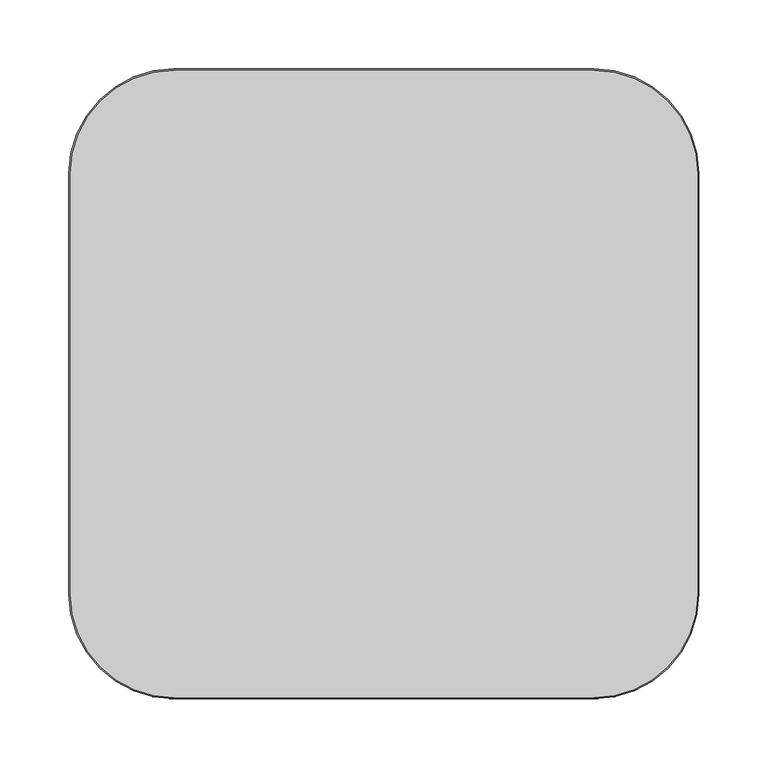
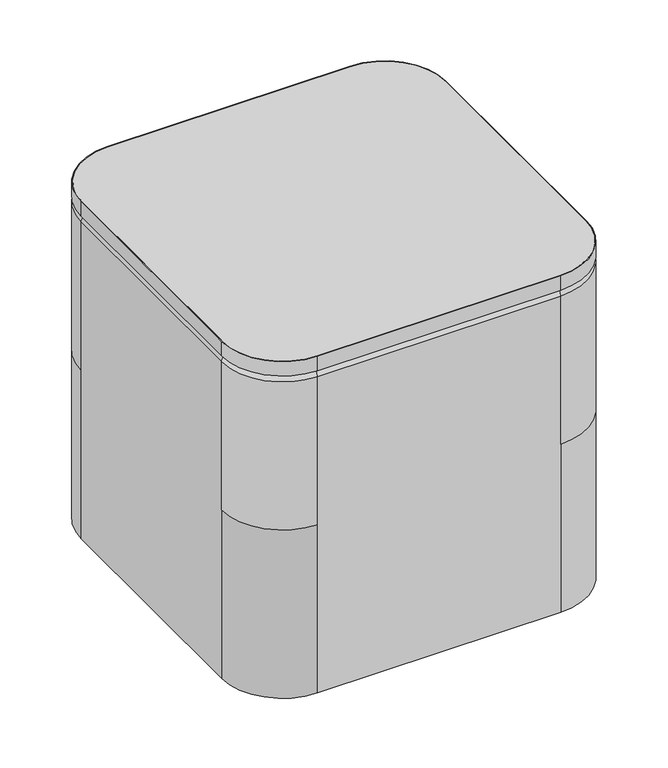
"""IFC4 building model written with IfcOpenShell, lengths in millimetres: furniture geometry, Indiana-Otty-Ottoman_Square_Table : 840-1818SOT."""

from ifc_helpers import new_model, si_unit, point, frame, frame_2d, origin, place, context, project, spatial, polyline, circle_curve, ellipse_curve, trimmed, segment, composite_curve, outline, extrude, source, transform, mapped, element, save
from ifc_brep_helpers import plane_surface, cylinder_surface, revolved_surface, advanced_brep


def furniture_d617ee3a(model_context):
    return source(origin(), model_context, "Body", "SolidModel", [
        extrude(outline(composite_curve([segment(trimmed(circle_curve(frame_2d((152.4, 152.4)), 75.2078125), [point((152.4, 227.6078125))], [point((227.6078125, 152.4))], False, "CARTESIAN"), True, "CONTINUOUS"), segment(polyline([(227.6078125, 152.4), (227.6078125, -152.4)]), True, "CONTINUOUS"), segment(trimmed(circle_curve(frame_2d((152.4, -152.4)), 75.2078125), [point((227.6078125, -152.4))], [point((152.4, -227.6078125))], False, "CARTESIAN"), True, "CONTINUOUS"), segment(polyline([(152.4, -227.6078125), (-152.4, -227.6078125)]), True, "CONTINUOUS"), segment(trimmed(circle_curve(frame_2d((-152.4, -152.4)), 75.2078125), [point((-152.4, -227.6078125))], [point((-227.6078125, -152.4))], False, "CARTESIAN"), True, "CONTINUOUS"), segment(polyline([(-227.6078125, -152.4), (-227.6078125, 152.4)]), True, "CONTINUOUS"), segment(trimmed(circle_curve(frame_2d((-152.4, 152.4)), 75.2078125), [point((-227.6078125, 152.4))], [point((-152.4, 227.6078125))], False, "CARTESIAN"), True, "CONTINUOUS"), segment(polyline([(-152.4, 227.6078125), (152.4, 227.6078125)]), True, "CONTINUOUS")], self_intersect=False)), frame((0.0, 0.0, 438.15), z_axis=(0.0, 0.0, 1.0), x_axis=(1.0, 0.0, 0.0)), (0.0, 0.0, 1.0), 19.05),
        extrude(outline(composite_curve([segment(polyline([(-228.6, -152.4), (-228.6, 152.4)]), True, "CONTINUOUS"), segment(trimmed(circle_curve(frame_2d((-152.4, 152.4)), 76.2), [point((-228.6, 152.4))], [point((-152.4, 228.6))], False, "CARTESIAN"), True, "CONTINUOUS"), segment(polyline([(-152.4, 228.6), (152.4, 228.6)]), True, "CONTINUOUS"), segment(trimmed(circle_curve(frame_2d((152.4, 152.4)), 76.2), [point((152.4, 228.6))], [point((228.6, 152.4))], False, "CARTESIAN"), True, "CONTINUOUS"), segment(polyline([(228.6, 152.4), (228.6, -152.4)]), True, "CONTINUOUS"), segment(trimmed(circle_curve(frame_2d((152.4, -152.4)), 76.2), [point((228.6, -152.4))], [point((152.4, -228.6))], False, "CARTESIAN"), True, "CONTINUOUS"), segment(polyline([(152.4, -228.6), (-152.4, -228.6)]), True, "CONTINUOUS"), segment(trimmed(circle_curve(frame_2d((-152.4, -152.4)), 76.2), [point((-152.4, -228.6))], [point((-228.6, -152.4))], False, "CARTESIAN"), True, "CONTINUOUS")], self_intersect=False), holes=[composite_curve([segment(polyline([(152.4, 227.6078125), (-152.4, 227.6078125)]), True, "CONTINUOUS"), segment(trimmed(circle_curve(frame_2d((-152.4, 152.4)), 75.2078125), [point((-152.4, 227.6078125))], [point((-227.6078125, 152.4))], True, "CARTESIAN"), True, "CONTINUOUS"), segment(polyline([(-227.6078125, 152.4), (-227.6078125, -152.4)]), True, "CONTINUOUS"), segment(trimmed(circle_curve(frame_2d((-152.4, -152.4)), 75.2078125), [point((-227.6078125, -152.4))], [point((-152.4, -227.6078125))], True, "CARTESIAN"), True, "CONTINUOUS"), segment(polyline([(-152.4, -227.6078125), (152.4, -227.6078125)]), True, "CONTINUOUS"), segment(trimmed(circle_curve(frame_2d((152.4, -152.4)), 75.2078125), [point((152.4, -227.6078125))], [point((227.6078125, -152.4))], True, "CARTESIAN"), True, "CONTINUOUS"), segment(polyline([(227.6078125, -152.4), (227.6078125, 152.4)]), True, "CONTINUOUS"), segment(trimmed(circle_curve(frame_2d((152.4, 152.4)), 75.2078125), [point((227.6078125, 152.4))], [point((152.4, 227.6078125))], True, "CARTESIAN"), True, "CONTINUOUS")], self_intersect=False)]), frame((0.0, 0.0, 438.15), z_axis=(0.0, 0.0, 1.0), x_axis=(1.0, 0.0, 0.0)), (0.0, 0.0, 1.0), 19.05),
        advanced_brep(
        [(174.625, -174.625, 19.8875), (174.625, -197.125, 19.8875), (174.625, -152.125, 19.8875), (174.625, -196.6765082, 4.2458827), (174.625, -152.5734918, 4.2458827), (174.625, -192.1913665, -0.1125), (174.625, -157.0586335, -0.1125), (174.625, -184.8926178, -0.1125), (174.625, -164.3573822, -0.1125), (174.625, -180.9981417, 3.9179615), (174.625, -168.2518583, 3.9179615), (174.625, -174.625, 3.9179615)],
        [
            (0, 1),
            (1, 2, circle_curve(frame((174.625, -174.625, 19.8875), z_axis=(0.0, 0.0, 1.0), x_axis=(0.0, -1.0, 0.0)), 22.5)),
            (2, 0),
            (2, 1, circle_curve(frame((174.625, -174.625, 19.8875), z_axis=(0.0, 0.0, 1.0), x_axis=(0.0, -1.0, 0.0)), 22.5)),
            (1, 3),
            (3, 4, circle_curve(frame((174.625, -174.625, 4.2458827), z_axis=(0.0, 0.0, 1.0), x_axis=(0.0, -1.0, 0.0)), 22.0515082)),
            (4, 2),
            (4, 3, circle_curve(frame((174.625, -174.625, 4.2458827), z_axis=(0.0, 0.0, 1.0), x_axis=(0.0, -1.0, 0.0)), 22.0515082)),
            (3, 5, circle_curve(frame((174.625, -192.1913665, 4.3744851), z_axis=(1.0, 0.0, 0.0), x_axis=(0.0, 1.0, 0.0)), 4.4869851)),
            (5, 6, circle_curve(frame((174.625, -174.625, -0.1125), z_axis=(0.0, 0.0, 1.0), x_axis=(0.0, -1.0, 0.0)), 17.5663665)),
            (6, 4, circle_curve(frame((174.625, -157.0586335, 4.3744851), z_axis=(1.0, 0.0, 0.0), x_axis=(0.0, -1.0, 0.0)), 4.4869851)),
            (6, 5, circle_curve(frame((174.625, -174.625, -0.1125), z_axis=(0.0, 0.0, 1.0), x_axis=(0.0, -1.0, 0.0)), 17.5663665)),
            (5, 7),
            (7, 8, circle_curve(frame((174.625, -174.625, -0.1125), z_axis=(0.0, 0.0, 1.0), x_axis=(0.0, -1.0, 0.0)), 10.2676178)),
            (8, 6),
            (8, 7, circle_curve(frame((174.625, -174.625, -0.1125), z_axis=(0.0, 0.0, 1.0), x_axis=(0.0, -1.0, 0.0)), 10.2676178)),
            (7, 9, circle_curve(frame((174.625, -184.8926178, 3.7842702), z_axis=(1.0, 0.0, 0.0), x_axis=(0.0, 1.0, 0.0)), 3.8967702)),
            (9, 10, circle_curve(frame((174.625, -174.625, 3.9179615), z_axis=(0.0, 0.0, 1.0), x_axis=(0.0, -1.0, 0.0)), 6.3731417)),
            (10, 8, circle_curve(frame((174.625, -164.3573822, 3.7842702), z_axis=(1.0, 0.0, 0.0), x_axis=(0.0, -1.0, 0.0)), 3.8967702)),
            (10, 9, circle_curve(frame((174.625, -174.625, 3.9179615), z_axis=(0.0, 0.0, 1.0), x_axis=(0.0, -1.0, 0.0)), 6.3731417)),
            (9, 11),
            (11, 10),
        ],
        [
            plane_surface(frame((174.625, -174.625, 19.8875), z_axis=(0.0, 0.0, 1.0), x_axis=(0.0, -1.0, 0.0))),
            revolved_surface(polyline([(174.625, -196.6765082, 4.2458827), (174.625, -197.125, 19.8875)]), (174.625, -174.625, 31.0803862), (0.0, 0.0, 1.0)),
            revolved_surface(trimmed(ellipse_curve(frame((174.625, -192.1913665, 4.3744851), z_axis=(-1.0, 0.0, 0.0), x_axis=(0.0, 1.0, 0.0)), 4.4869851, 4.4869851), [point((174.625, -192.1913665, -0.1125))], [point((174.625, -196.6765082, 4.2458827))], True, "CARTESIAN"), (174.625, -174.625, 31.0803862), (0.0, 0.0, 1.0)),
            plane_surface(frame((174.625, -174.625, -0.1125), z_axis=(0.0, 0.0, -1.0), x_axis=(0.0, -1.0, 0.0))),
            revolved_surface(trimmed(ellipse_curve(frame((174.625, -184.8926178, 3.7842702), z_axis=(-1.0, 0.0, 0.0), x_axis=(0.0, 1.0, 0.0)), 3.8967702, 3.8967702), [point((174.625, -180.9981417, 3.9179615))], [point((174.625, -184.8926178, -0.1125))], True, "CARTESIAN"), (174.625, -174.625, 31.0803862), (0.0, 0.0, 1.0)),
            plane_surface(frame((174.625, -174.625, 3.9179615), z_axis=(0.0, 0.0, -1.0), x_axis=(0.0, -1.0, 0.0))),
        ],
        [
            (0, [[1, 2, 3]]),
            (0, [[-3, 4, -1]]),
            (1, [[-2, 5, 6, 7]]),
            (1, [[-4, -7, 8, -5]]),
            (2, [[-6, 9, 10, 11]]),
            (2, [[-8, -11, 12, -9]]),
            (3, [[-10, 13, 14, 15]]),
            (3, [[-12, -15, 16, -13]]),
            (4, [[-14, 17, 18, 19]]),
            (4, [[-16, -19, 20, -17]]),
            (5, [[-18, 21, 22]]),
            (5, [[-20, -22, -21]]),
        ],
    ),
        advanced_brep(
        [(174.625, 174.625, 19.8875), (174.625, 152.125, 19.8875), (174.625, 197.125, 19.8875), (174.625, 152.5734918, 4.2458827), (174.625, 196.6765082, 4.2458827), (174.625, 157.0586335, -0.1125), (174.625, 192.1913665, -0.1125), (174.625, 164.3573822, -0.1125), (174.625, 184.8926178, -0.1125), (174.625, 168.2518583, 3.9179615), (174.625, 180.9981417, 3.9179615), (174.625, 174.625, 3.9179615)],
        [
            (0, 1),
            (1, 2, circle_curve(frame((174.625, 174.625, 19.8875), z_axis=(0.0, 0.0, 1.0), x_axis=(0.0, -1.0, 0.0)), 22.5)),
            (2, 0),
            (2, 1, circle_curve(frame((174.625, 174.625, 19.8875), z_axis=(0.0, 0.0, 1.0), x_axis=(0.0, -1.0, 0.0)), 22.5)),
            (1, 3),
            (3, 4, circle_curve(frame((174.625, 174.625, 4.2458827), z_axis=(0.0, 0.0, 1.0), x_axis=(0.0, -1.0, 0.0)), 22.0515082)),
            (4, 2),
            (4, 3, circle_curve(frame((174.625, 174.625, 4.2458827), z_axis=(0.0, 0.0, 1.0), x_axis=(0.0, -1.0, 0.0)), 22.0515082)),
            (3, 5, circle_curve(frame((174.625, 157.0586335, 4.3744851), z_axis=(1.0, 0.0, 0.0), x_axis=(0.0, 1.0, 0.0)), 4.4869851)),
            (5, 6, circle_curve(frame((174.625, 174.625, -0.1125), z_axis=(0.0, 0.0, 1.0), x_axis=(0.0, -1.0, 0.0)), 17.5663665)),
            (6, 4, circle_curve(frame((174.625, 192.1913665, 4.3744851), z_axis=(1.0, 0.0, 0.0), x_axis=(0.0, -1.0, 0.0)), 4.4869851)),
            (6, 5, circle_curve(frame((174.625, 174.625, -0.1125), z_axis=(0.0, 0.0, 1.0), x_axis=(0.0, -1.0, 0.0)), 17.5663665)),
            (5, 7),
            (7, 8, circle_curve(frame((174.625, 174.625, -0.1125), z_axis=(0.0, 0.0, 1.0), x_axis=(0.0, -1.0, 0.0)), 10.2676178)),
            (8, 6),
            (8, 7, circle_curve(frame((174.625, 174.625, -0.1125), z_axis=(0.0, 0.0, 1.0), x_axis=(0.0, -1.0, 0.0)), 10.2676178)),
            (7, 9, circle_curve(frame((174.625, 164.3573822, 3.7842702), z_axis=(1.0, 0.0, 0.0), x_axis=(0.0, 1.0, 0.0)), 3.8967702)),
            (9, 10, circle_curve(frame((174.625, 174.625, 3.9179615), z_axis=(0.0, 0.0, 1.0), x_axis=(0.0, -1.0, 0.0)), 6.3731417)),
            (10, 8, circle_curve(frame((174.625, 184.8926178, 3.7842702), z_axis=(1.0, 0.0, 0.0), x_axis=(0.0, -1.0, 0.0)), 3.8967702)),
            (10, 9, circle_curve(frame((174.625, 174.625, 3.9179615), z_axis=(0.0, 0.0, 1.0), x_axis=(0.0, -1.0, 0.0)), 6.3731417)),
            (9, 11),
            (11, 10),
        ],
        [
            plane_surface(frame((174.625, 174.625, 19.8875), z_axis=(0.0, 0.0, 1.0), x_axis=(0.0, -1.0, 0.0))),
            revolved_surface(polyline([(174.625, 152.5734918, 4.2458827), (174.625, 152.125, 19.8875)]), (174.625, 174.625, 31.0803862), (0.0, 0.0, 1.0)),
            revolved_surface(trimmed(ellipse_curve(frame((174.625, 157.0586335, 4.3744851), z_axis=(-1.0, 0.0, 0.0), x_axis=(0.0, 1.0, 0.0)), 4.4869851, 4.4869851), [point((174.625, 157.0586335, -0.1125))], [point((174.625, 152.5734918, 4.2458827))], True, "CARTESIAN"), (174.625, 174.625, 31.0803862), (0.0, 0.0, 1.0)),
            plane_surface(frame((174.625, 174.625, -0.1125), z_axis=(0.0, 0.0, -1.0), x_axis=(0.0, -1.0, 0.0))),
            revolved_surface(trimmed(ellipse_curve(frame((174.625, 164.3573822, 3.7842702), z_axis=(-1.0, 0.0, 0.0), x_axis=(0.0, 1.0, 0.0)), 3.8967702, 3.8967702), [point((174.625, 168.2518583, 3.9179615))], [point((174.625, 164.3573822, -0.1125))], True, "CARTESIAN"), (174.625, 174.625, 31.0803862), (0.0, 0.0, 1.0)),
            plane_surface(frame((174.625, 174.625, 3.9179615), z_axis=(0.0, 0.0, -1.0), x_axis=(0.0, -1.0, 0.0))),
        ],
        [
            (0, [[1, 2, 3]]),
            (0, [[-3, 4, -1]]),
            (1, [[-2, 5, 6, 7]]),
            (1, [[-4, -7, 8, -5]]),
            (2, [[-6, 9, 10, 11]]),
            (2, [[-8, -11, 12, -9]]),
            (3, [[-10, 13, 14, 15]]),
            (3, [[-12, -15, 16, -13]]),
            (4, [[-14, 17, 18, 19]]),
            (4, [[-16, -19, 20, -17]]),
            (5, [[-18, 21, 22]]),
            (5, [[-20, -22, -21]]),
        ],
    ),
        advanced_brep(
        [(-174.625, -174.625, 19.8875), (-174.625, -197.125, 19.8875), (-174.625, -152.125, 19.8875), (-174.625, -196.6765082, 4.2458827), (-174.625, -152.5734918, 4.2458827), (-174.625, -192.1913665, -0.1125), (-174.625, -157.0586335, -0.1125), (-174.625, -184.8926178, -0.1125), (-174.625, -164.3573822, -0.1125), (-174.625, -180.9981417, 3.9179615), (-174.625, -168.2518583, 3.9179615), (-174.625, -174.625, 3.9179615)],
        [
            (0, 1),
            (1, 2, circle_curve(frame((-174.625, -174.625, 19.8875), z_axis=(0.0, 0.0, 1.0), x_axis=(0.0, -1.0, 0.0)), 22.5)),
            (2, 0),
            (2, 1, circle_curve(frame((-174.625, -174.625, 19.8875), z_axis=(0.0, 0.0, 1.0), x_axis=(0.0, -1.0, 0.0)), 22.5)),
            (1, 3),
            (3, 4, circle_curve(frame((-174.625, -174.625, 4.2458827), z_axis=(0.0, 0.0, 1.0), x_axis=(0.0, -1.0, 0.0)), 22.0515082)),
            (4, 2),
            (4, 3, circle_curve(frame((-174.625, -174.625, 4.2458827), z_axis=(0.0, 0.0, 1.0), x_axis=(0.0, -1.0, 0.0)), 22.0515082)),
            (3, 5, circle_curve(frame((-174.625, -192.1913665, 4.3744851), z_axis=(1.0, 0.0, 0.0), x_axis=(0.0, 1.0, 0.0)), 4.4869851)),
            (5, 6, circle_curve(frame((-174.625, -174.625, -0.1125), z_axis=(0.0, 0.0, 1.0), x_axis=(0.0, -1.0, 0.0)), 17.5663665)),
            (6, 4, circle_curve(frame((-174.625, -157.0586335, 4.3744851), z_axis=(1.0, 0.0, 0.0), x_axis=(0.0, -1.0, 0.0)), 4.4869851)),
            (6, 5, circle_curve(frame((-174.625, -174.625, -0.1125), z_axis=(0.0, 0.0, 1.0), x_axis=(0.0, -1.0, 0.0)), 17.5663665)),
            (5, 7),
            (7, 8, circle_curve(frame((-174.625, -174.625, -0.1125), z_axis=(0.0, 0.0, 1.0), x_axis=(0.0, -1.0, 0.0)), 10.2676178)),
            (8, 6),
            (8, 7, circle_curve(frame((-174.625, -174.625, -0.1125), z_axis=(0.0, 0.0, 1.0), x_axis=(0.0, -1.0, 0.0)), 10.2676178)),
            (7, 9, circle_curve(frame((-174.625, -184.8926178, 3.7842702), z_axis=(1.0, 0.0, 0.0), x_axis=(0.0, 1.0, 0.0)), 3.8967702)),
            (9, 10, circle_curve(frame((-174.625, -174.625, 3.9179615), z_axis=(0.0, 0.0, 1.0), x_axis=(0.0, -1.0, 0.0)), 6.3731417)),
            (10, 8, circle_curve(frame((-174.625, -164.3573822, 3.7842702), z_axis=(1.0, 0.0, 0.0), x_axis=(0.0, -1.0, 0.0)), 3.8967702)),
            (10, 9, circle_curve(frame((-174.625, -174.625, 3.9179615), z_axis=(0.0, 0.0, 1.0), x_axis=(0.0, -1.0, 0.0)), 6.3731417)),
            (9, 11),
            (11, 10),
        ],
        [
            plane_surface(frame((-174.625, -174.625, 19.8875), z_axis=(0.0, 0.0, 1.0), x_axis=(0.0, -1.0, 0.0))),
            revolved_surface(polyline([(-174.625, -196.6765082, 4.2458827), (-174.625, -197.125, 19.8875)]), (-174.625, -174.625, 31.0803862), (0.0, 0.0, 1.0)),
            revolved_surface(trimmed(ellipse_curve(frame((-174.625, -192.1913665, 4.3744851), z_axis=(-1.0, 0.0, 0.0), x_axis=(0.0, 1.0, 0.0)), 4.4869851, 4.4869851), [point((-174.625, -192.1913665, -0.1125))], [point((-174.625, -196.6765082, 4.2458827))], True, "CARTESIAN"), (-174.625, -174.625, 31.0803862), (0.0, 0.0, 1.0)),
            plane_surface(frame((-174.625, -174.625, -0.1125), z_axis=(0.0, 0.0, -1.0), x_axis=(0.0, -1.0, 0.0))),
            revolved_surface(trimmed(ellipse_curve(frame((-174.625, -184.8926178, 3.7842702), z_axis=(-1.0, 0.0, 0.0), x_axis=(0.0, 1.0, 0.0)), 3.8967702, 3.8967702), [point((-174.625, -180.9981417, 3.9179615))], [point((-174.625, -184.8926178, -0.1125))], True, "CARTESIAN"), (-174.625, -174.625, 31.0803862), (0.0, 0.0, 1.0)),
            plane_surface(frame((-174.625, -174.625, 3.9179615), z_axis=(0.0, 0.0, -1.0), x_axis=(0.0, -1.0, 0.0))),
        ],
        [
            (0, [[1, 2, 3]]),
            (0, [[-3, 4, -1]]),
            (1, [[-2, 5, 6, 7]]),
            (1, [[-4, -7, 8, -5]]),
            (2, [[-6, 9, 10, 11]]),
            (2, [[-8, -11, 12, -9]]),
            (3, [[-10, 13, 14, 15]]),
            (3, [[-12, -15, 16, -13]]),
            (4, [[-14, 17, 18, 19]]),
            (4, [[-16, -19, 20, -17]]),
            (5, [[-18, 21, 22]]),
            (5, [[-20, -22, -21]]),
        ],
    ),
        advanced_brep(
        [(-174.625, 174.625, 19.8875), (-174.625, 152.125, 19.8875), (-174.625, 197.125, 19.8875), (-174.625, 152.5734918, 4.2458827), (-174.625, 196.6765082, 4.2458827), (-174.625, 157.0586335, -0.1125), (-174.625, 192.1913665, -0.1125), (-174.625, 164.3573822, -0.1125), (-174.625, 184.8926178, -0.1125), (-174.625, 168.2518583, 3.9179615), (-174.625, 180.9981417, 3.9179615), (-174.625, 174.625, 3.9179615)],
        [
            (0, 1),
            (1, 2, circle_curve(frame((-174.625, 174.625, 19.8875), z_axis=(0.0, 0.0, 1.0), x_axis=(0.0, -1.0, 0.0)), 22.5)),
            (2, 0),
            (2, 1, circle_curve(frame((-174.625, 174.625, 19.8875), z_axis=(0.0, 0.0, 1.0), x_axis=(0.0, -1.0, 0.0)), 22.5)),
            (1, 3),
            (3, 4, circle_curve(frame((-174.625, 174.625, 4.2458827), z_axis=(0.0, 0.0, 1.0), x_axis=(0.0, -1.0, 0.0)), 22.0515082)),
            (4, 2),
            (4, 3, circle_curve(frame((-174.625, 174.625, 4.2458827), z_axis=(0.0, 0.0, 1.0), x_axis=(0.0, -1.0, 0.0)), 22.0515082)),
            (3, 5, circle_curve(frame((-174.625, 157.0586335, 4.3744851), z_axis=(1.0, 0.0, 0.0), x_axis=(0.0, 1.0, 0.0)), 4.4869851)),
            (5, 6, circle_curve(frame((-174.625, 174.625, -0.1125), z_axis=(0.0, 0.0, 1.0), x_axis=(0.0, -1.0, 0.0)), 17.5663665)),
            (6, 4, circle_curve(frame((-174.625, 192.1913665, 4.3744851), z_axis=(1.0, 0.0, 0.0), x_axis=(0.0, -1.0, 0.0)), 4.4869851)),
            (6, 5, circle_curve(frame((-174.625, 174.625, -0.1125), z_axis=(0.0, 0.0, 1.0), x_axis=(0.0, -1.0, 0.0)), 17.5663665)),
            (5, 7),
            (7, 8, circle_curve(frame((-174.625, 174.625, -0.1125), z_axis=(0.0, 0.0, 1.0), x_axis=(0.0, -1.0, 0.0)), 10.2676178)),
            (8, 6),
            (8, 7, circle_curve(frame((-174.625, 174.625, -0.1125), z_axis=(0.0, 0.0, 1.0), x_axis=(0.0, -1.0, 0.0)), 10.2676178)),
            (7, 9, circle_curve(frame((-174.625, 164.3573822, 3.7842702), z_axis=(1.0, 0.0, 0.0), x_axis=(0.0, 1.0, 0.0)), 3.8967702)),
            (9, 10, circle_curve(frame((-174.625, 174.625, 3.9179615), z_axis=(0.0, 0.0, 1.0), x_axis=(0.0, -1.0, 0.0)), 6.3731417)),
            (10, 8, circle_curve(frame((-174.625, 184.8926178, 3.7842702), z_axis=(1.0, 0.0, 0.0), x_axis=(0.0, -1.0, 0.0)), 3.8967702)),
            (10, 9, circle_curve(frame((-174.625, 174.625, 3.9179615), z_axis=(0.0, 0.0, 1.0), x_axis=(0.0, -1.0, 0.0)), 6.3731417)),
            (9, 11),
            (11, 10),
        ],
        [
            plane_surface(frame((-174.625, 174.625, 19.8875), z_axis=(0.0, 0.0, 1.0), x_axis=(0.0, -1.0, 0.0))),
            revolved_surface(polyline([(-174.625, 152.5734918, 4.2458827), (-174.625, 152.125, 19.8875)]), (-174.625, 174.625, 31.0803862), (0.0, 0.0, 1.0)),
            revolved_surface(trimmed(ellipse_curve(frame((-174.625, 157.0586335, 4.3744851), z_axis=(-1.0, 0.0, 0.0), x_axis=(0.0, 1.0, 0.0)), 4.4869851, 4.4869851), [point((-174.625, 157.0586335, -0.1125))], [point((-174.625, 152.5734918, 4.2458827))], True, "CARTESIAN"), (-174.625, 174.625, 31.0803862), (0.0, 0.0, 1.0)),
            plane_surface(frame((-174.625, 174.625, -0.1125), z_axis=(0.0, 0.0, -1.0), x_axis=(0.0, -1.0, 0.0))),
            revolved_surface(trimmed(ellipse_curve(frame((-174.625, 164.3573822, 3.7842702), z_axis=(-1.0, 0.0, 0.0), x_axis=(0.0, 1.0, 0.0)), 3.8967702, 3.8967702), [point((-174.625, 168.2518583, 3.9179615))], [point((-174.625, 164.3573822, -0.1125))], True, "CARTESIAN"), (-174.625, 174.625, 31.0803862), (0.0, 0.0, 1.0)),
            plane_surface(frame((-174.625, 174.625, 3.9179615), z_axis=(0.0, 0.0, -1.0), x_axis=(0.0, -1.0, 0.0))),
        ],
        [
            (0, [[1, 2, 3]]),
            (0, [[-3, 4, -1]]),
            (1, [[-2, 5, 6, 7]]),
            (1, [[-4, -7, 8, -5]]),
            (2, [[-6, 9, 10, 11]]),
            (2, [[-8, -11, 12, -9]]),
            (3, [[-10, 13, 14, 15]]),
            (3, [[-12, -15, 16, -13]]),
            (4, [[-14, 17, 18, 19]]),
            (4, [[-16, -19, 20, -17]]),
            (5, [[-18, 21, 22]]),
            (5, [[-20, -22, -21]]),
        ],
    ),
        advanced_brep(
        [(152.4, 228.6, 234.35), (152.4, 228.6, 430.2043778), (228.6, 152.4, 430.2043778), (228.6, 152.4, 234.35), (228.6, -152.4, 430.2043778), (228.6, -152.4, 234.35), (228.6, -152.4, 11.5), (228.6, 152.4, 11.5), (152.4, -228.6, 430.2043778), (152.4, -228.6, 234.35), (-152.4, -228.6, 430.2043778), (-152.4, -228.6, 234.35), (-152.4, -228.6, 11.5), (152.4, -228.6, 11.5), (-228.6, -152.4, 430.2043778), (-228.6, -152.4, 234.35), (-228.6, 152.4, 430.2043778), (-228.6, 152.4, 234.35), (-228.6, 152.4, 11.5), (-228.6, -152.4, 11.5), (-152.4, 228.6, 430.2043778), (-152.4, 228.6, 234.35), (152.4, 220.6543778, 438.15), (-152.4, 220.6543778, 438.15), (-220.6543778, 152.4, 438.15), (-220.6543778, -152.4, 438.15), (-152.4, -220.6543778, 438.15), (152.4, -220.6543778, 438.15), (220.6543778, -152.4, 438.15), (220.6543778, 152.4, 438.15), (152.4, 228.6, 11.5), (-152.4, 228.6, 11.5), (-197.64375, -174.625, 11.5), (-151.60625, -174.625, 11.5), (-197.64375, 174.625, 11.5), (-151.60625, 174.625, 11.5), (151.60625, 174.625, 11.5), (197.64375, 174.625, 11.5), (151.60625, -174.625, 11.5), (197.64375, -174.625, 11.5), (-0.396875, 174.625, 11.5), (0.396875, 174.625, 11.5), (-0.396875, -174.625, 11.5), (0.396875, -174.625, 11.5), (-151.60625, -174.625, 19.834375), (-197.64375, -174.625, 19.834375), (-151.60625, 174.625, 19.834375), (-197.64375, 174.625, 19.834375), (151.60625, 174.625, 19.834375), (197.64375, 174.625, 19.834375), (151.60625, -174.625, 19.834375), (197.64375, -174.625, 19.834375), (-0.396875, 174.625, 11.896875), (0.396875, 174.625, 11.896875), (-0.396875, -174.625, 11.896875), (0.396875, -174.625, 11.896875)],
        [
            (0, 1),
            (1, 2, circle_curve(frame((152.4, 152.4, 430.2043778), z_axis=(0.0, 0.0, -1.0), x_axis=(0.0, 1.0, 0.0)), 76.2)),
            (2, 3),
            (3, 0, circle_curve(frame((152.4, 152.4, 234.35), z_axis=(0.0, 0.0, 1.0), x_axis=(0.0, 1.0, 0.0)), 76.2)),
            (2, 4),
            (4, 5),
            (5, 6),
            (6, 7),
            (7, 3),
            (4, 8, circle_curve(frame((152.4, -152.4, 430.2043778), z_axis=(0.0, 0.0, -1.0), x_axis=(1.0, 0.0, 0.0)), 76.2)),
            (8, 9),
            (9, 5, circle_curve(frame((152.4, -152.4, 234.35), z_axis=(0.0, 0.0, 1.0), x_axis=(1.0, 0.0, 0.0)), 76.2)),
            (8, 10),
            (10, 11),
            (11, 12),
            (12, 13),
            (13, 9),
            (10, 14, circle_curve(frame((-152.4, -152.4, 430.2043778), z_axis=(0.0, 0.0, -1.0), x_axis=(0.0, -1.0, 0.0)), 76.2)),
            (14, 15),
            (15, 11, circle_curve(frame((-152.4, -152.4, 234.35), z_axis=(0.0, 0.0, 1.0), x_axis=(0.0, -1.0, 0.0)), 76.2)),
            (14, 16),
            (16, 17),
            (17, 18),
            (18, 19),
            (19, 15),
            (16, 20, circle_curve(frame((-152.4, 152.4, 430.2043778), z_axis=(0.0, 0.0, -1.0), x_axis=(-1.0, 0.0, 0.0)), 76.2)),
            (20, 21),
            (21, 17, circle_curve(frame((-152.4, 152.4, 234.35), z_axis=(0.0, 0.0, 1.0), x_axis=(-1.0, 0.0, 0.0)), 76.2)),
            (22, 23),
            (23, 24, circle_curve(frame((-152.4, 152.4, 438.15), z_axis=(0.0, 0.0, 1.0), x_axis=(-1.0, 0.0, 0.0)), 68.2543778)),
            (24, 25),
            (25, 26, circle_curve(frame((-152.4, -152.4, 438.15), z_axis=(0.0, 0.0, 1.0), x_axis=(0.0, -1.0, 0.0)), 68.2543778)),
            (26, 27),
            (27, 28, circle_curve(frame((152.4, -152.4, 438.15), z_axis=(0.0, 0.0, 1.0), x_axis=(1.0, 0.0, 0.0)), 68.2543778)),
            (28, 29),
            (29, 22, circle_curve(frame((152.4, 152.4, 438.15), z_axis=(0.0, 0.0, 1.0), x_axis=(0.0, 1.0, 0.0)), 68.2543778)),
            (0, 30),
            (30, 31),
            (31, 21),
            (20, 1),
            (30, 7, circle_curve(frame((152.4, 152.4, 11.5), z_axis=(0.0, 0.0, -1.0), x_axis=(1.0, 0.0, 0.0)), 76.2)),
            (6, 13, circle_curve(frame((152.4, -152.4, 11.5), z_axis=(0.0, 0.0, -1.0), x_axis=(1.0, 0.0, 0.0)), 76.2)),
            (12, 19, circle_curve(frame((-152.4, -152.4, 11.5), z_axis=(0.0, 0.0, -1.0), x_axis=(1.0, 0.0, 0.0)), 76.2)),
            (18, 31, circle_curve(frame((-152.4, 152.4, 11.5), z_axis=(0.0, 0.0, -1.0), x_axis=(1.0, 0.0, 0.0)), 76.2)),
            (32, 33, circle_curve(frame((-174.625, -174.625, 11.5), z_axis=(0.0, 0.0, 1.0), x_axis=(-1.0, 0.0, 0.0)), 23.01875)),
            (33, 32, circle_curve(frame((-174.625, -174.625, 11.5), z_axis=(0.0, 0.0, 1.0), x_axis=(-1.0, 0.0, 0.0)), 23.01875)),
            (34, 35, circle_curve(frame((-174.625, 174.625, 11.5), z_axis=(0.0, 0.0, 1.0), x_axis=(-1.0, 0.0, 0.0)), 23.01875)),
            (35, 34, circle_curve(frame((-174.625, 174.625, 11.5), z_axis=(0.0, 0.0, 1.0), x_axis=(-1.0, 0.0, 0.0)), 23.01875)),
            (36, 37, circle_curve(frame((174.625, 174.625, 11.5), z_axis=(0.0, 0.0, 1.0), x_axis=(-1.0, 0.0, 0.0)), 23.01875)),
            (37, 36, circle_curve(frame((174.625, 174.625, 11.5), z_axis=(0.0, 0.0, 1.0), x_axis=(-1.0, 0.0, 0.0)), 23.01875)),
            (38, 39, circle_curve(frame((174.625, -174.625, 11.5), z_axis=(0.0, 0.0, 1.0), x_axis=(-1.0, 0.0, 0.0)), 23.01875)),
            (39, 38, circle_curve(frame((174.625, -174.625, 11.5), z_axis=(0.0, 0.0, 1.0), x_axis=(-1.0, 0.0, 0.0)), 23.01875)),
            (40, 41, circle_curve(frame((0.0, 174.625, 11.5), z_axis=(0.0, 0.0, 1.0), x_axis=(-1.0, 0.0, 0.0)), 0.396875)),
            (41, 40, circle_curve(frame((0.0, 174.625, 11.5), z_axis=(0.0, 0.0, 1.0), x_axis=(-1.0, 0.0, 0.0)), 0.396875)),
            (42, 43, circle_curve(frame((0.0, -174.625, 11.5), z_axis=(0.0, 0.0, 1.0), x_axis=(-1.0, 0.0, 0.0)), 0.396875)),
            (43, 42, circle_curve(frame((0.0, -174.625, 11.5), z_axis=(0.0, 0.0, 1.0), x_axis=(-1.0, 0.0, 0.0)), 0.396875)),
            (44, 45, circle_curve(frame((-174.625, -174.625, 19.834375), z_axis=(0.0, 0.0, -1.0), x_axis=(-1.0, 0.0, 0.0)), 23.01875)),
            (45, 44, circle_curve(frame((-174.625, -174.625, 19.834375), z_axis=(0.0, 0.0, -1.0), x_axis=(-1.0, 0.0, 0.0)), 23.01875)),
            (32, 45),
            (44, 33),
            (46, 47, circle_curve(frame((-174.625, 174.625, 19.834375), z_axis=(0.0, 0.0, -1.0), x_axis=(-1.0, 0.0, 0.0)), 23.01875)),
            (47, 46, circle_curve(frame((-174.625, 174.625, 19.834375), z_axis=(0.0, 0.0, -1.0), x_axis=(-1.0, 0.0, 0.0)), 23.01875)),
            (34, 47),
            (46, 35),
            (36, 48),
            (48, 49, circle_curve(frame((174.625, 174.625, 19.834375), z_axis=(0.0, 0.0, 1.0), x_axis=(-1.0, 0.0, 0.0)), 23.01875)),
            (49, 37),
            (49, 48, circle_curve(frame((174.625, 174.625, 19.834375), z_axis=(0.0, 0.0, 1.0), x_axis=(-1.0, 0.0, 0.0)), 23.01875)),
            (38, 50),
            (50, 51, circle_curve(frame((174.625, -174.625, 19.834375), z_axis=(0.0, 0.0, 1.0), x_axis=(-1.0, 0.0, 0.0)), 23.01875)),
            (51, 39),
            (51, 50, circle_curve(frame((174.625, -174.625, 19.834375), z_axis=(0.0, 0.0, 1.0), x_axis=(-1.0, 0.0, 0.0)), 23.01875)),
            (40, 52),
            (52, 53, circle_curve(frame((0.0, 174.625, 11.896875), z_axis=(0.0, 0.0, 1.0), x_axis=(-1.0, 0.0, 0.0)), 0.396875)),
            (53, 41),
            (53, 52, circle_curve(frame((0.0, 174.625, 11.896875), z_axis=(0.0, 0.0, 1.0), x_axis=(-1.0, 0.0, 0.0)), 0.396875)),
            (42, 54),
            (54, 55, circle_curve(frame((0.0, -174.625, 11.896875), z_axis=(0.0, 0.0, 1.0), x_axis=(-1.0, 0.0, 0.0)), 0.396875)),
            (55, 43),
            (55, 54, circle_curve(frame((0.0, -174.625, 11.896875), z_axis=(0.0, 0.0, 1.0), x_axis=(-1.0, 0.0, 0.0)), 0.396875)),
            (1, 22, circle_curve(frame((152.4, 220.6543778, 430.2043778), z_axis=(1.0, 0.0, 0.0), x_axis=(0.0, 1.0, 0.0)), 7.9456222)),
            (29, 2, circle_curve(frame((220.6543778, 152.4, 430.2043778), z_axis=(0.0, 1.0, 0.0), x_axis=(1.0, 0.0, 0.0)), 7.9456222)),
            (28, 4, circle_curve(frame((220.6543778, -152.4, 430.2043778), z_axis=(0.0, 1.0, 0.0), x_axis=(1.0, 0.0, 0.0)), 7.9456222)),
            (27, 8, circle_curve(frame((152.4, -220.6543778, 430.2043778), z_axis=(1.0, 0.0, 0.0), x_axis=(0.0, -1.0, 0.0)), 7.9456222)),
            (26, 10, circle_curve(frame((-152.4, -220.6543778, 430.2043778), z_axis=(1.0, 0.0, 0.0), x_axis=(0.0, -1.0, 0.0)), 7.9456222)),
            (25, 14, circle_curve(frame((-220.6543778, -152.4, 430.2043778), z_axis=(0.0, -1.0, 0.0), x_axis=(-1.0, 0.0, 0.0)), 7.9456222)),
            (24, 16, circle_curve(frame((-220.6543778, 152.4, 430.2043778), z_axis=(0.0, -1.0, 0.0), x_axis=(-1.0, 0.0, 0.0)), 7.9456222)),
            (23, 20, circle_curve(frame((-152.4, 220.6543778, 430.2043778), z_axis=(-1.0, 0.0, 0.0), x_axis=(0.0, 1.0, 0.0)), 7.9456222)),
        ],
        [
            cylinder_surface(frame((152.4, 152.4, 0.0), z_axis=(0.0, 0.0, -1.0), x_axis=(0.0, 1.0, 0.0)), 76.2),
            plane_surface(frame((228.6, 152.4, 430.2043778), z_axis=(1.0, 0.0, 0.0), x_axis=(0.0, -1.0, 0.0))),
            cylinder_surface(frame((152.4, -152.4, 0.0), z_axis=(0.0, 0.0, -1.0), x_axis=(1.0, 0.0, 0.0)), 76.2),
            plane_surface(frame((152.4, -228.6, 430.2043778), z_axis=(0.0, -1.0, 0.0), x_axis=(-1.0, 0.0, 0.0))),
            cylinder_surface(frame((-152.4, -152.4, 0.0), z_axis=(0.0, 0.0, -1.0), x_axis=(0.0, -1.0, 0.0)), 76.2),
            plane_surface(frame((-228.6, -152.4, 430.2043778), z_axis=(-1.0, 0.0, 0.0), x_axis=(0.0, 1.0, 0.0))),
            cylinder_surface(frame((-152.4, 152.4, 0.0), z_axis=(0.0, 0.0, -1.0), x_axis=(-1.0, 0.0, 0.0)), 76.2),
            plane_surface(frame((-152.4, 155.575, 438.15), z_axis=(0.0, 0.0, 1.0), x_axis=(1.0, 0.0, 0.0))),
            plane_surface(frame((-152.4, 228.6, 430.2043778), z_axis=(0.0, 1.0, 0.0), x_axis=(1.0, 0.0, 0.0))),
            plane_surface(frame((-152.4, 228.6, 11.5), z_axis=(0.0, 0.0, -1.0), x_axis=(1.0, 0.0, 0.0))),
            cylinder_surface(frame((-152.4, 152.4, 11.5), z_axis=(0.0, 0.0, 1.0), x_axis=(1.0, 0.0, 0.0)), 76.2),
            cylinder_surface(frame((-152.4, -152.4, 11.5), z_axis=(0.0, 0.0, 1.0), x_axis=(1.0, 0.0, 0.0)), 76.2),
            cylinder_surface(frame((152.4, -152.4, 11.5), z_axis=(0.0, 0.0, 1.0), x_axis=(1.0, 0.0, 0.0)), 76.2),
            cylinder_surface(frame((152.4, 152.4, 11.5), z_axis=(0.0, 0.0, 1.0), x_axis=(1.0, 0.0, 0.0)), 76.2),
            plane_surface(frame((-197.64375, -174.625, 19.834375), z_axis=(0.0, 0.0, -1.0), x_axis=(0.0, -1.0, 0.0))),
            revolved_surface(polyline([(-197.64375, -174.625, 11.5), (-197.64375, -174.625, 19.834375)]), (-174.625, -174.625, 19.834375), (0.0, 0.0, -1.0)),
            plane_surface(frame((-197.64375, 174.625, 19.834375), z_axis=(0.0, 0.0, -1.0), x_axis=(0.0, -1.0, 0.0))),
            revolved_surface(polyline([(-197.64375, 174.625, 11.5), (-197.64375, 174.625, 19.834375)]), (-174.625, 174.625, 19.834375), (0.0, 0.0, -1.0)),
            revolved_surface(polyline([(151.60625, 174.625, 11.5), (151.60625, 174.625, 19.834375)]), (174.625, 174.625, 19.834375), (0.0, 0.0, -1.0)),
            revolved_surface(polyline([(151.60625, -174.625, 11.5), (151.60625, -174.625, 19.834375)]), (174.625, -174.625, 19.834375), (0.0, 0.0, -1.0)),
            plane_surface(frame((151.60625, 174.625, 19.834375), z_axis=(0.0, 0.0, -1.0), x_axis=(0.0, -1.0, 0.0))),
            plane_surface(frame((151.60625, -174.625, 19.834375), z_axis=(0.0, 0.0, -1.0), x_axis=(0.0, -1.0, 0.0))),
            revolved_surface(polyline([(-0.396875, 174.625, 11.5), (-0.396875, 174.625, 11.896875)]), (0.0, 174.625, 11.896875), (0.0, 0.0, -1.0)),
            revolved_surface(polyline([(-0.396875, -174.625, 11.5), (-0.396875, -174.625, 11.896875)]), (0.0, -174.625, 11.896875), (0.0, 0.0, -1.0)),
            plane_surface(frame((-0.396875, -174.625, 11.896875), z_axis=(0.0, 0.0, -1.0), x_axis=(0.0, -1.0, 0.0))),
            plane_surface(frame((-0.396875, 174.625, 11.896875), z_axis=(0.0, 0.0, -1.0), x_axis=(0.0, -1.0, 0.0))),
            revolved_surface(trimmed(ellipse_curve(frame((152.4, 220.6543778, 430.2043778), z_axis=(-1.0, 0.0, 0.0), x_axis=(0.0, 1.0, 0.0)), 7.9456222, 7.9456222), [point((152.4, 220.6543778, 438.15))], [point((152.4, 228.6, 430.2043778))], True, "CARTESIAN"), (152.4, 152.4, 0.0), (0.0, 0.0, -1.0)),
            cylinder_surface(frame((220.6543778, 152.4, 430.2043778), z_axis=(0.0, 1.0, 0.0), x_axis=(1.0, 0.0, 0.0)), 7.9456222),
            revolved_surface(trimmed(ellipse_curve(frame((220.6543778, -152.4, 430.2043778), z_axis=(0.0, 1.0, 0.0), x_axis=(1.0, 0.0, 0.0)), 7.9456222, 7.9456222), [point((220.6543778, -152.4, 438.15))], [point((228.6, -152.4, 430.2043778))], True, "CARTESIAN"), (152.4, -152.4, 0.0), (0.0, 0.0, -1.0)),
            cylinder_surface(frame((152.4, -220.6543778, 430.2043778), z_axis=(1.0, 0.0, 0.0), x_axis=(0.0, -1.0, 0.0)), 7.9456222),
            revolved_surface(trimmed(ellipse_curve(frame((-152.4, -220.6543778, 430.2043778), z_axis=(1.0, 0.0, 0.0), x_axis=(0.0, -1.0, 0.0)), 7.9456222, 7.9456222), [point((-152.4, -220.6543778, 438.15))], [point((-152.4, -228.6, 430.2043778))], True, "CARTESIAN"), (-152.4, -152.4, 0.0), (0.0, 0.0, -1.0)),
            cylinder_surface(frame((-220.6543778, -152.4, 430.2043778), z_axis=(0.0, -1.0, 0.0), x_axis=(-1.0, 0.0, 0.0)), 7.9456222),
            revolved_surface(trimmed(ellipse_curve(frame((-220.6543778, 152.4, 430.2043778), z_axis=(0.0, -1.0, 0.0), x_axis=(-1.0, 0.0, 0.0)), 7.9456222, 7.9456222), [point((-220.6543778, 152.4, 438.15))], [point((-228.6, 152.4, 430.2043778))], True, "CARTESIAN"), (-152.4, 152.4, 0.0), (0.0, 0.0, -1.0)),
            cylinder_surface(frame((-152.4, 220.6543778, 430.2043778), z_axis=(-1.0, 0.0, 0.0), x_axis=(0.0, 1.0, 0.0)), 7.9456222),
        ],
        [
            (0, [[1, 2, 3, 4]]),
            (1, [[-3, 5, 6, 7, 8, 9]]),
            (2, [[-6, 10, 11, 12]]),
            (3, [[-11, 13, 14, 15, 16, 17]]),
            (4, [[-14, 18, 19, 20]]),
            (5, [[-19, 21, 22, 23, 24, 25]]),
            (6, [[-22, 26, 27, 28]]),
            (7, [[29, 30, 31, 32, 33, 34, 35, 36]]),
            (8, [[-1, 37, 38, 39, -27, 40]]),
            (9, [[-38, 41, -8, 42, -16, 43, -24, 44], [45, 46], [47, 48], [49, 50], [51, 52], [53, 54], [55, 56]]),
            (10, [[-44, -23, -28, -39]]),
            (11, [[-43, -15, -20, -25]]),
            (12, [[-42, -7, -12, -17]]),
            (13, [[-41, -37, -4, -9]]),
            (14, [[57, 58]]),
            (15, [[-45, 59, -57, 60]]),
            (15, [[-46, -60, -58, -59]]),
            (16, [[61, 62]]),
            (17, [[-47, 63, -61, 64]]),
            (17, [[-48, -64, -62, -63]]),
            (18, [[-49, 65, 66, 67]]),
            (18, [[-50, -67, 68, -65]]),
            (19, [[-51, 69, 70, 71]]),
            (19, [[-52, -71, 72, -69]]),
            (20, [[-66, -68]]),
            (21, [[-70, -72]]),
            (22, [[-53, 73, 74, 75]]),
            (22, [[-54, -75, 76, -73]]),
            (23, [[-55, 77, 78, 79]]),
            (23, [[-56, -79, 80, -77]]),
            (24, [[-78, -80]]),
            (25, [[-74, -76]]),
            (26, [[-2, 81, -36, 82]]),
            (27, [[-5, -82, -35, 83]]),
            (28, [[-10, -83, -34, 84]]),
            (29, [[-13, -84, -33, 85]]),
            (30, [[-18, -85, -32, 86]]),
            (31, [[-21, -86, -31, 87]]),
            (32, [[-26, -87, -30, 88]]),
            (33, [[-29, -81, -40, -88]]),
        ],
    ),
    ])


if __name__ == "__main__":
    model = new_model("IFC4")
    model_context = context("Model", 3, world=origin())
    ifc_project = project(units=[si_unit("LENGTHUNIT", "METRE", prefix="MILLI")], contexts=[model_context])
    site = spatial("IfcSite", under=ifc_project)
    building = spatial("IfcBuilding", under=site)
    placement = place(None, origin())
    furniture_shape = furniture_d617ee3a(model_context)
    element("IfcFurniture", 1, ObjectType="Indiana-Otty-Ottoman_Square_Table : 840-1818SOT", at=placement, inside=building, context=model_context, shape_type="MappedRepresentation", body=[
        mapped(furniture_shape, transform((0.0, 0.0, 0.0), x_axis=(1.0, 0.0, 0.0), y_axis=(0.0, 1.0, 0.0), z_axis=(0.0, 0.0, 1.0))),
    ])
    save(model, "model.ifc")
